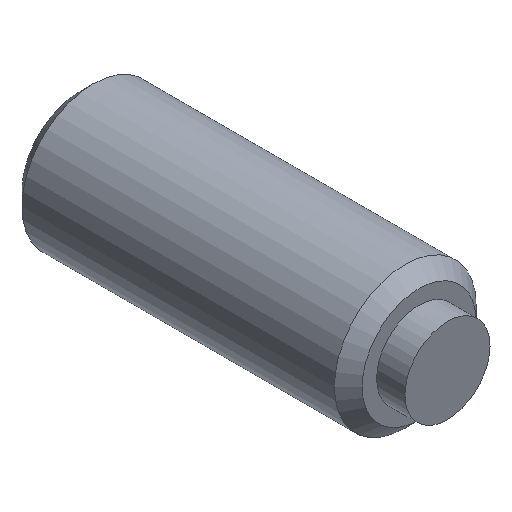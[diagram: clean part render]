
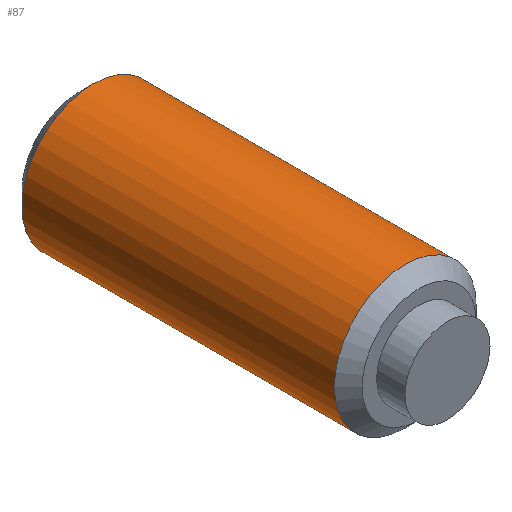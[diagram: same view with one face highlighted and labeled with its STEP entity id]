
A CAD part, isometric view. The second image highlights one B-rep face of the part: STEP entity #87.
In plain terms, the highlighted cylindrical face has radius 2.5 mm (diameter 5 mm), a full revolution.
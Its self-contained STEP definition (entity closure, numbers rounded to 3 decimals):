
#87 = ADVANCED_FACE( '', ( #118, #119 ), #120, .T. );
#118 = FACE_OUTER_BOUND( '', #152, .T. );
#119 = FACE_OUTER_BOUND( '', #153, .T. );
#120 = CYLINDRICAL_SURFACE( '', #154, 2.5 );
#152 = EDGE_LOOP( '', ( #238 ) );
#153 = EDGE_LOOP( '', ( #239 ) );
#154 = AXIS2_PLACEMENT_3D( '', #240, #241, #242 );
#238 = ORIENTED_EDGE( '', *, *, #270, .F. );
#239 = ORIENTED_EDGE( '', *, *, #271, .T. );
#240 = CARTESIAN_POINT( '', ( 0., 0., 0. ) );
#241 = DIRECTION( '', ( 0., 1., 0. ) );
#242 = DIRECTION( '', ( 0., 0., -1. ) );
#270 = EDGE_CURVE( '', #310, #310, #311, .T. );
#271 = EDGE_CURVE( '', #312, #312, #313, .T. );
#310 = VERTEX_POINT( '', #370 );
#311 = CIRCLE( '', #371, 2.5 );
#312 = VERTEX_POINT( '', #372 );
#313 = CIRCLE( '', #373, 2.5 );
#370 = CARTESIAN_POINT( '', ( 0., 1.491, -2.5 ) );
#371 = AXIS2_PLACEMENT_3D( '', #404, #405, #406 );
#372 = CARTESIAN_POINT( '', ( 0., 12.51, -2.5 ) );
#373 = AXIS2_PLACEMENT_3D( '', #407, #408, #409 );
#404 = CARTESIAN_POINT( '', ( 0., 1.491, 0. ) );
#405 = DIRECTION( '', ( 0., -1., 0. ) );
#406 = DIRECTION( '', ( 0., 0., -1. ) );
#407 = CARTESIAN_POINT( '', ( 0., 12.51, 0. ) );
#408 = DIRECTION( '', ( 0., -1., 0. ) );
#409 = DIRECTION( '', ( 0., 0., -1. ) );
